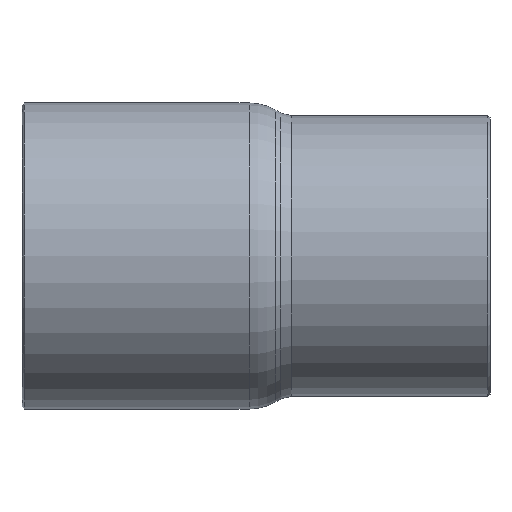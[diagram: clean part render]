
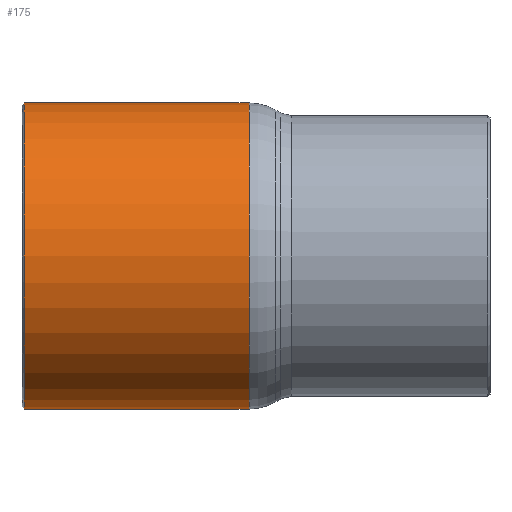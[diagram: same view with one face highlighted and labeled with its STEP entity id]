
A CAD part, front view. The second image highlights one B-rep face of the part: STEP entity #175.
In plain terms, the highlighted cylindrical face has radius 14.287 mm (diameter 28.575 mm), a full revolution.
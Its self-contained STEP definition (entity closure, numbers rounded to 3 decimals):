
#144=CARTESIAN_POINT('',(-27.4,14.288,0.));
#145=VERTEX_POINT('',#144);
#146=CARTESIAN_POINT('',(-27.4,0.0,0.0));
#147=DIRECTION('',(-1.0,0.0,0.0));
#148=DIRECTION('',(0.0,-1.0,0.0));
#149=AXIS2_PLACEMENT_3D('',#146,#147,#148);
#150=CIRCLE('',#149,14.288);
#151=EDGE_CURVE('',#145,#145,#150,.T.);
#156=CARTESIAN_POINT('',(-17.0,0.0,0.0));
#157=DIRECTION('',(1.0,0.0,0.0));
#158=DIRECTION('',(0.0,1.0,0.0));
#159=AXIS2_PLACEMENT_3D('',#156,#157,#158);
#160=CYLINDRICAL_SURFACE('',#159,14.288);
#161=CARTESIAN_POINT('',(-6.4,14.288,0.0));
#162=VERTEX_POINT('',#161);
#163=CARTESIAN_POINT('',(-6.4,0.0,0.0));
#164=DIRECTION('',(1.0,0.0,0.0));
#165=DIRECTION('',(0.0,1.0,0.0));
#166=AXIS2_PLACEMENT_3D('',#163,#164,#165);
#167=CIRCLE('',#166,14.288);
#168=EDGE_CURVE('',#162,#162,#167,.T.);
#169=ORIENTED_EDGE('',*,*,#168,.F.);
#170=EDGE_LOOP('',(#169));
#171=FACE_OUTER_BOUND('',#170,.T.);
#172=ORIENTED_EDGE('',*,*,#151,.F.);
#173=EDGE_LOOP('',(#172));
#174=FACE_BOUND('',#173,.T.);
#175=ADVANCED_FACE('',(#171,#174),#160,.T.);
